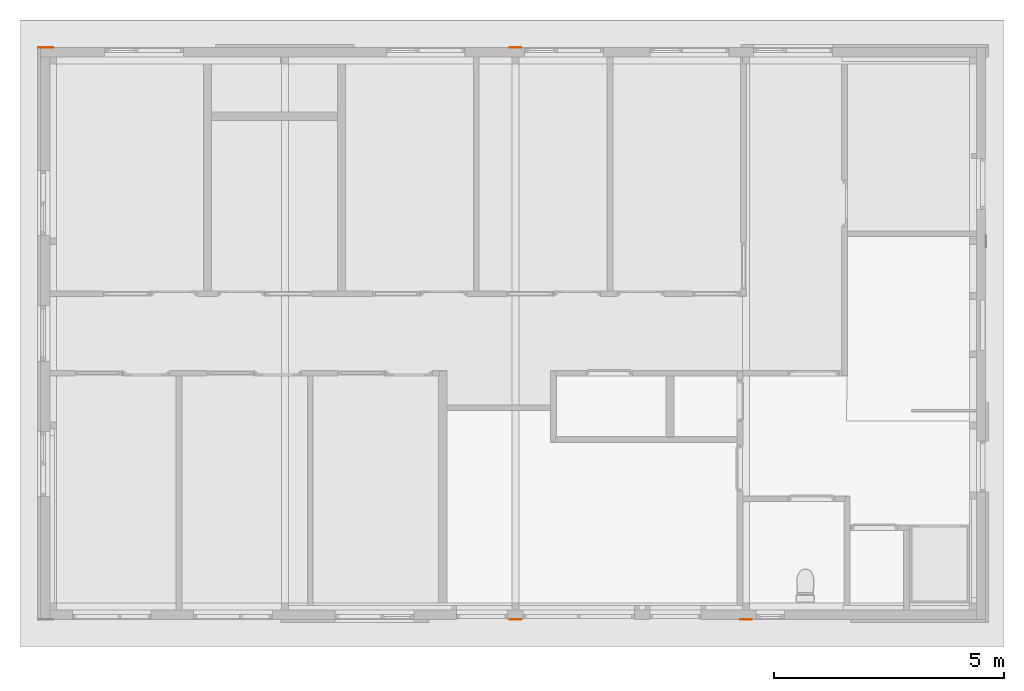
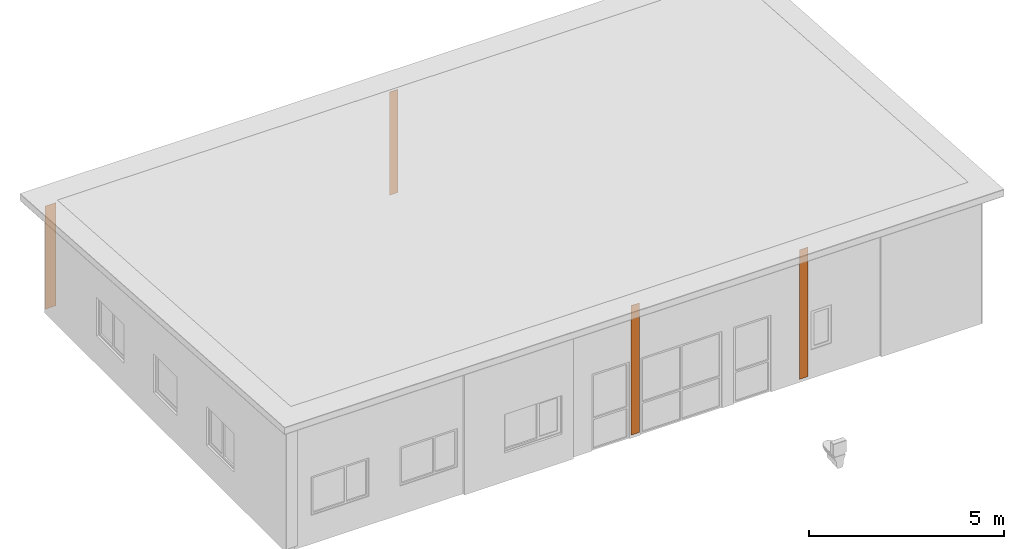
# One storey, part 36 of 37: 4 proxies.
"""IFC2X3 building model written with IfcOpenShell, lengths in millimetres."""

from ifc_helpers import new_model, entity, si_unit, converted_unit, frame, origin, place, context, subcontext, project, spatial, faceted_brep, material, element, save


model = new_model("IFC2X3")

# Units and contexts
model_context = context("Model", 3, precision=1e-05, world=origin())
plan_context = context("Plan", 3, precision=1e-05, world=origin())
body_context = subcontext(model_context, "Body", "Model", "MODEL_VIEW")
ifc_project = project(units=[si_unit("LENGTHUNIT", "METRE", prefix="MILLI"), converted_unit("PLANEANGLEUNIT", "DEGREE", entity("IfcPlaneAngleMeasure", 0.0174532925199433), si_unit("PLANEANGLEUNIT", "RADIAN"), dimensions=[0, 0, 0, 0, 0, 0, 0]), si_unit("AREAUNIT", "SQUARE_METRE"), si_unit("VOLUMEUNIT", "CUBIC_METRE")], contexts=[model_context, plan_context])

# Building, storey
building_placement = place(None, origin())
building = spatial("IfcBuilding", under=ifc_project, at=building_placement, Name="HEKF Administrasjonbygg", CompositionType="ELEMENT")
storey_placement = place(building_placement, frame((0.0, 0.0, 9900.0), z_axis=(0.0, 0.0, 1.0), x_axis=(1.0, 0.0, 0.0)))
storey = spatial("IfcBuildingStorey", under=building, at=storey_placement, Name="Plan 2", CompositionType="ELEMENT", Elevation=9900.0)

# Proxies
ifc_material_1 = material(Name="T24")
proxy_1_placement = place(storey_placement, frame((9653.989999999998, 199.9900000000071, 100.9900000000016), z_axis=(0.0, 0.0, 1.0), x_axis=(1.0, 0.0, 0.0)))
element("IfcBuildingElementProxy", 1, at=proxy_1_placement, inside=storey, material=ifc_material_1, context=body_context, shape_type="Brep", body=[
    faceted_brep([(0.01000000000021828, 10.00999999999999, 0.00999999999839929), (0.01000000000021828, 10.01000000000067, 3235.676666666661), (0.01000000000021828, 0.01000000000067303, 3235.676666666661), (0.01000000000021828, 0.009999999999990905, 0.00999999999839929), (320.0100000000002, 10.00999999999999, 0.00999999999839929), (0.01000000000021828, 10.00999999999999, 0.00999999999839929), (0.01000000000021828, 0.009999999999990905, 0.00999999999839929), (320.0100000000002, 0.009999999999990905, 0.00999999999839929), (320.0100000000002, 10.01000000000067, 3235.676666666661), (320.0100000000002, 10.00999999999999, 0.00999999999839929), (320.0100000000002, 0.009999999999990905, 0.00999999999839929), (320.0100000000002, 0.01000000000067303, 3235.676666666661), (0.01000000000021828, 10.01000000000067, 3235.676666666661), (320.0100000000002, 10.01000000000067, 3235.676666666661), (320.0100000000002, 0.01000000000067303, 3235.676666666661), (0.01000000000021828, 0.01000000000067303, 3235.676666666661), (0.01000000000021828, 0.009999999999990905, 0.00999999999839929), (0.01000000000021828, 0.01000000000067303, 3235.676666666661), (320.0100000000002, 0.01000000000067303, 3235.676666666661), (320.0100000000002, 0.009999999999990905, 0.00999999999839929), (320.0100000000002, 10.00999999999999, 0.00999999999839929), (320.0100000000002, 10.01000000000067, 3235.676666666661), (0.01000000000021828, 10.01000000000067, 3235.676666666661), (0.01000000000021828, 10.00999999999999, 0.00999999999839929)], [[[0, 1, 2, 3]], [[4, 5, 6, 7]], [[8, 9, 10, 11]], [[12, 13, 14, 15]], [[16, 17, 18, 19]], [[20, 21, 22, 23]]], orient=[[False], [False], [False], [False], [False], [False]]),
])
ifc_material_2 = material(Name="T24")
proxy_2_placement = place(storey_placement, frame((19874.99, 199.9899999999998, 100.9900000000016), z_axis=(0.0, 0.0, 1.0), x_axis=(1.0, 0.0, 0.0)))
element("IfcBuildingElementProxy", 2, at=proxy_2_placement, inside=storey, material=ifc_material_2, context=body_context, shape_type="Brep", body=[
    faceted_brep([(0.00999999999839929, 0.01000000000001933, 0.00999999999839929), (0.00999999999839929, 10.01000000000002, 0.00999999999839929), (0.00999999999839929, 10.01000000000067, 3235.676666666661), (0.00999999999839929, 0.01000000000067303, 3235.676666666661), (250.0099999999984, 0.01000000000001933, 0.00999999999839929), (250.0099999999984, 10.01000000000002, 0.00999999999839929), (0.00999999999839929, 10.01000000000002, 0.00999999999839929), (0.00999999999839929, 0.01000000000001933, 0.00999999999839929), (250.0099999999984, 0.01000000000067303, 3235.676666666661), (250.0099999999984, 10.01000000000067, 3235.676666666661), (250.0099999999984, 10.01000000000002, 0.00999999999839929), (250.0099999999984, 0.01000000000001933, 0.00999999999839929), (0.00999999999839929, 0.01000000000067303, 3235.676666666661), (0.00999999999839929, 10.01000000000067, 3235.676666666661), (250.0099999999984, 10.01000000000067, 3235.676666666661), (250.0099999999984, 0.01000000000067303, 3235.676666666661), (0.00999999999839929, 10.01000000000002, 0.00999999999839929), (250.0099999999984, 10.01000000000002, 0.00999999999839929), (250.0099999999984, 10.01000000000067, 3235.676666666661), (0.00999999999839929, 10.01000000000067, 3235.676666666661), (250.0099999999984, 0.01000000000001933, 0.00999999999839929), (0.00999999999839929, 0.01000000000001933, 0.00999999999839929), (0.00999999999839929, 0.01000000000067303, 3235.676666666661), (250.0099999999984, 0.01000000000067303, 3235.676666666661)], [[[0, 1, 2, 3]], [[4, 5, 6, 7]], [[8, 9, 10, 11]], [[12, 13, 14, 15]], [[16, 17, 18, 19]], [[20, 21, 22, 23]]], orient=[[False], [False], [False], [False], [False], [False]]),
])
ifc_material_3 = material(Name="T24")
proxy_3_placement = place(storey_placement, frame((19874.98999999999, -12210.01000000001, 99.98999999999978), z_axis=(0.0, 0.0, 1.0), x_axis=(1.0, 0.0, 0.0)))
element("IfcBuildingElementProxy", 3, at=proxy_3_placement, inside=storey, material=ifc_material_3, context=body_context, shape_type="Brep", body=[
    faceted_brep([(0.00999999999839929, 10.01000000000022, 0.01000000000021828), (0.00999999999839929, 10.01000000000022, 4063.343333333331), (0.00999999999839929, 0.01000000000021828, 4063.343333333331), (0.00999999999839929, 0.01000000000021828, 0.01000000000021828), (250.0099999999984, 10.01000000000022, 0.01000000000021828), (0.00999999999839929, 10.01000000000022, 0.01000000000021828), (0.00999999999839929, 0.01000000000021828, 0.01000000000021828), (250.0099999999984, 0.01000000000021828, 0.01000000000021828), (250.0099999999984, 10.01000000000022, 4063.343333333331), (250.0099999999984, 10.01000000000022, 0.01000000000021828), (250.0099999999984, 0.01000000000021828, 0.01000000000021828), (250.0099999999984, 0.01000000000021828, 4063.343333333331), (0.00999999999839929, 10.01000000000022, 4063.343333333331), (250.0099999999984, 10.01000000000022, 4063.343333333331), (250.0099999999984, 0.01000000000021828, 4063.343333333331), (0.00999999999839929, 0.01000000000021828, 4063.343333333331), (0.00999999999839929, 0.01000000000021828, 0.01000000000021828), (0.00999999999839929, 0.01000000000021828, 4063.343333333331), (250.0099999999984, 0.01000000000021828, 4063.343333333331), (250.0099999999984, 0.01000000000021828, 0.01000000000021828), (250.0099999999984, 10.01000000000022, 0.01000000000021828), (250.0099999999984, 10.01000000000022, 4063.343333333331), (0.00999999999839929, 10.01000000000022, 4063.343333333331), (0.00999999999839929, 10.01000000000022, 0.01000000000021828)], [[[0, 1, 2, 3]], [[4, 5, 6, 7]], [[8, 9, 10, 11]], [[12, 13, 14, 15]], [[16, 17, 18, 19]], [[20, 21, 22, 23]]], orient=[[False], [False], [False], [False], [False], [False]]),
])
ifc_material_4 = material(Name="T24")
proxy_4_placement = place(storey_placement, frame((24874.98999999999, -12210.01000000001, 99.98999999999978), z_axis=(0.0, 0.0, 1.0), x_axis=(1.0, 0.0, 0.0)))
element("IfcBuildingElementProxy", 4, at=proxy_4_placement, inside=storey, material=ifc_material_4, context=body_context, shape_type="Brep", body=[
    faceted_brep([(0.00999999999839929, 10.01000000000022, 0.01000000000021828), (0.00999999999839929, 10.01000000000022, 4063.343333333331), (0.00999999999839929, 0.01000000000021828, 4063.343333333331), (0.00999999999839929, 0.01000000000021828, 0.01000000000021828), (250.0099999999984, 10.01000000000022, 0.01000000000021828), (0.00999999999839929, 10.01000000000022, 0.01000000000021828), (0.00999999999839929, 0.01000000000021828, 0.01000000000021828), (250.0099999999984, 0.01000000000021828, 0.01000000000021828), (250.0099999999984, 10.01000000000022, 4063.343333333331), (250.0099999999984, 10.01000000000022, 0.01000000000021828), (250.0099999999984, 0.01000000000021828, 0.01000000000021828), (250.0099999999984, 0.01000000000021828, 4063.343333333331), (0.00999999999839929, 10.01000000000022, 4063.343333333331), (250.0099999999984, 10.01000000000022, 4063.343333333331), (250.0099999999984, 0.01000000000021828, 4063.343333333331), (0.00999999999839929, 0.01000000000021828, 4063.343333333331), (0.00999999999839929, 0.01000000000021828, 0.01000000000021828), (0.00999999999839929, 0.01000000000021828, 4063.343333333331), (250.0099999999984, 0.01000000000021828, 4063.343333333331), (250.0099999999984, 0.01000000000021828, 0.01000000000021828), (250.0099999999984, 10.01000000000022, 0.01000000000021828), (250.0099999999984, 10.01000000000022, 4063.343333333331), (0.00999999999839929, 10.01000000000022, 4063.343333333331), (0.00999999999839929, 10.01000000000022, 0.01000000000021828)], [[[0, 1, 2, 3]], [[4, 5, 6, 7]], [[8, 9, 10, 11]], [[12, 13, 14, 15]], [[16, 17, 18, 19]], [[20, 21, 22, 23]]], orient=[[False], [False], [False], [False], [False], [False]]),
])

save(model, "model.ifc")
